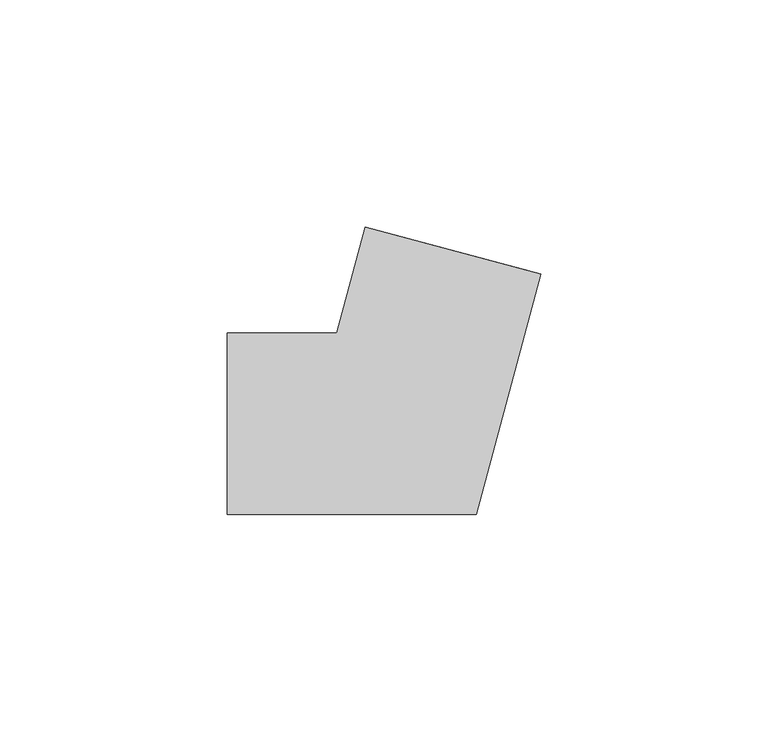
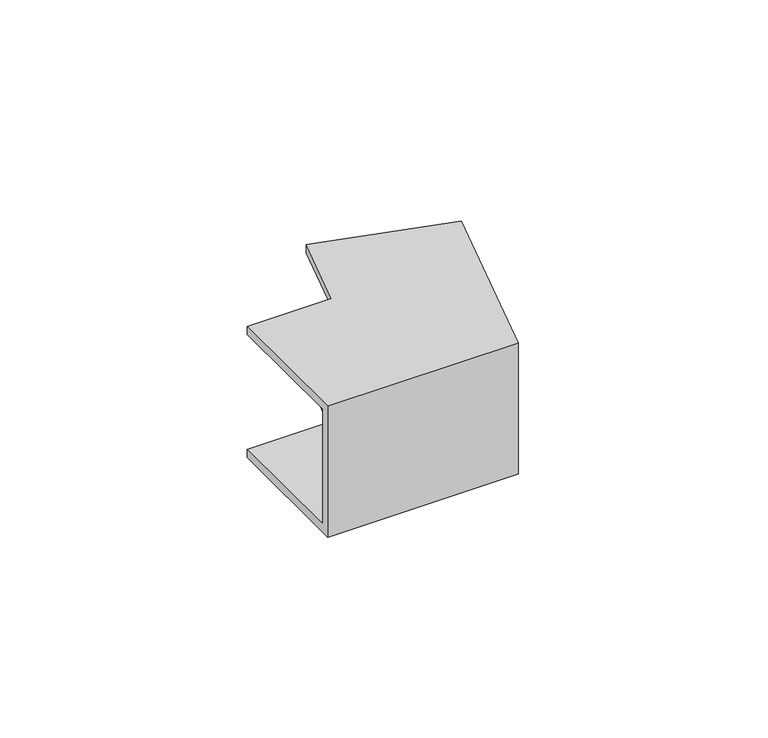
"""IFC4 building model written with IfcOpenShell, lengths in millimetres: cable carrier fitting geometry, КНС_УголВнутренний_ILC_DKC : Угол внутренний_DKC."""

import ifcopenshell
import ifcopenshell.guid

model = None  # the IFC model being written
_history = None  # IfcOwnerHistory: only IFC2X3 demands one
_inside = {}  # id of a spatial element -> (the spatial element, [elements in it])
_under = {}  # id of a project, library or spatial element -> (it, [spatial elements below it])
_declared = {}  # id of a project -> (the project, [libraries it declares])
_typed = {}  # id of a type object -> (the type object, [elements of that type])
_made_of = {}  # id of a material, layer set ... -> (it, [elements and type objects made of it])


def new_model(schema):
    """Start an empty IFC model of exactly this schema.

    Asked for "IFC4X3", IfcOpenShell would pick the latest addendum, in which some entities
    have other attributes; the version numbers below select the first issue.
    IFC2X3 requires an IfcOwnerHistory on every rooted entity: one is made here for all.
    """
    global model, _history
    if schema == "IFC4X3":
        model = ifcopenshell.file(schema_version=(4, 3, 0, 0))
    else:
        model = ifcopenshell.file(schema=schema)
    _inside.clear()
    _under.clear()
    _declared.clear()
    _typed.clear()
    _made_of.clear()
    _history = None
    if model.schema == "IFC2X3":
        org = make("IfcOrganization", Name="unknown")
        user = make(
            "IfcPersonAndOrganization",
            ThePerson=make("IfcPerson", FamilyName="unknown"),
            TheOrganization=org,
        )
        app = make(
            "IfcApplication",
            ApplicationDeveloper=org,
            Version="unknown",
            ApplicationFullName="unknown",
            ApplicationIdentifier="unknown",
        )
        _history = make(
            "IfcOwnerHistory",
            OwningUser=user,
            OwningApplication=app,
            ChangeAction="ADDED",
            CreationDate=0,
        )
    return model


def make(cls, **values):
    """One entity of the class cls with the attributes given. An attribute that is None is left unset."""
    return model.create_entity(
        cls, **{name: value for name, value in values.items() if value is not None}
    )


def rooted(cls, **values):
    """An entity with a GlobalId (a new one), such as an element, a storey or a relation."""
    return make(cls, GlobalId=ifcopenshell.guid.new(), OwnerHistory=_history, **values)


def si_unit(unit_type, name, prefix=None):
    """IfcSIUnit, for example si_unit("LENGTHUNIT", "METRE", prefix="MILLI")."""
    return make("IfcSIUnit", UnitType=unit_type, Prefix=prefix, Name=name)


def assignment(units):
    """IfcUnitAssignment: the units of a project."""
    return None if units is None else make("IfcUnitAssignment", Units=units)


def point(xyz):
    """IfcCartesianPoint."""
    return None if xyz is None else make("IfcCartesianPoint", Coordinates=xyz)


def direction(xyz):
    """IfcDirection."""
    return None if xyz is None else make("IfcDirection", DirectionRatios=xyz)


def frame(location, z_axis=None, x_axis=None):
    """IfcAxis2Placement3D, a coordinate frame: its origin and axes. An axis left out is left unset."""
    return make(
        "IfcAxis2Placement3D",
        Location=point(location),
        Axis=direction(z_axis),
        RefDirection=direction(x_axis),
    )


def origin():
    """The frame at (0, 0, 0) with its axes left unset."""
    return frame((0.0, 0.0, 0.0))


def place(relative_to, where):
    """IfcLocalPlacement: puts the frame where relative to a parent placement (None: the world)."""
    return make(
        "IfcLocalPlacement", PlacementRelTo=relative_to, RelativePlacement=where
    )


def context(
    kind, dimensions, precision=None, world=None, true_north=None, identifier=None
):
    """IfcGeometricRepresentationContext, for example the 3D "Model" context."""
    return make(
        "IfcGeometricRepresentationContext",
        ContextIdentifier=identifier,
        ContextType=kind,
        CoordinateSpaceDimension=dimensions,
        Precision=precision,
        WorldCoordinateSystem=world,
        TrueNorth=true_north,
    )


def project(units=None, contexts=None):
    """IfcProject with its units and contexts."""
    return rooted(
        "IfcProject",
        Name="project",
        RepresentationContexts=contexts,
        UnitsInContext=assignment(units),
    )


def spatial(cls, under=None, at=None, **own):
    """A site, building, storey or space (cls), placed at a placement, below another one or the project."""
    s = rooted(cls, ObjectPlacement=at, **own)
    if under is not None:
        _under.setdefault(under.id(), (under, []))[1].append(s)
    return s


def faces_of(points, faces, orient=None, outer=None):
    """IfcFace entities. A face is a list of loops; a loop is a list of indices into points, from 0.

    orient and outer hold one flag for each loop. By default every Orientation is true, the
    first loop of a face is its IfcFaceOuterBound and the others are IfcFaceBound.
    """
    made = []
    for i, loops in enumerate(faces):
        bounds = []
        for j, loop in enumerate(loops):
            is_outer = j == 0 if outer is None else outer[i][j]
            bounds.append(
                make(
                    "IfcFaceOuterBound" if is_outer else "IfcFaceBound",
                    Bound=make("IfcPolyLoop", Polygon=[points[k] for k in loop]),
                    Orientation=True if orient is None else orient[i][j],
                )
            )
        made.append(make("IfcFace", Bounds=bounds))
    return made


def faceted_brep(points, faces, orient=None, outer=None, voids=None):
    """IfcFacetedBrep: a solid bounded by flat faces; with voids (closed shells), ...WithVoids."""
    shared = [point(p) for p in points]
    hull = make("IfcClosedShell", CfsFaces=faces_of(shared, faces, orient, outer))
    if voids is None:
        return make("IfcFacetedBrep", Outer=hull)
    return make(
        "IfcFacetedBrepWithVoids",
        Outer=hull,
        Voids=[
            make(cls, CfsFaces=faces_of(shared, fs, o, b)) for cls, fs, o, b in voids
        ],
    )


def shape(context_of_items, identifier, shape_type, items):
    """IfcShapeRepresentation: the items that make up one representation, for example the "Body"."""
    return make(
        "IfcShapeRepresentation",
        ContextOfItems=context_of_items,
        RepresentationIdentifier=identifier,
        RepresentationType=shape_type,
        Items=items,
    )


def source(mapping_origin, context_of_items, identifier, shape_type, items):
    """IfcRepresentationMap: a shape defined once, which mapped items show again and again."""
    return make(
        "IfcRepresentationMap",
        MappingOrigin=mapping_origin,
        MappedRepresentation=shape(context_of_items, identifier, shape_type, items),
    )


def transform(
    local_origin,
    x_axis=None,
    y_axis=None,
    z_axis=None,
    scale=None,
    scale2=None,
    scale3=None,
    uniform=True,
):
    """IfcCartesianTransformationOperator3D, or its non-uniform kind. x_axis, y_axis, z_axis: its Axis1, 2, 3."""
    if uniform:
        return make(
            "IfcCartesianTransformationOperator3D",
            Axis1=direction(x_axis),
            Axis2=direction(y_axis),
            LocalOrigin=point(local_origin),
            Scale=scale,
            Axis3=direction(z_axis),
        )
    return make(
        "IfcCartesianTransformationOperator3DnonUniform",
        Axis1=direction(x_axis),
        Axis2=direction(y_axis),
        LocalOrigin=point(local_origin),
        Scale=scale,
        Axis3=direction(z_axis),
        Scale2=scale2,
        Scale3=scale3,
    )


def mapped(mapping_source, mapping_target):
    """IfcMappedItem: shows the shape of a source again, moved by a transform."""
    return make(
        "IfcMappedItem", MappingSource=mapping_source, MappingTarget=mapping_target
    )


def made_of(thing, what):
    """Note that an element or type object is made of a material, layer set ...; save() writes the relation."""
    if what is not None:
        _made_of.setdefault(what.id(), (what, []))[1].append(thing)
    return thing


def element(
    cls,
    number,
    at=None,
    inside=None,
    cuts=None,
    type_object=None,
    material=None,
    context=None,
    identifier="Body",
    shape_type=None,
    held_by="IfcProductDefinitionShape",
    body=None,
    shapes=None,
    **own,
):
    """One element of the class cls, such as IfcWall. Its Tag is "e" and its number.

    at: its placement. inside: the storey or other place that contains it. cuts: it is an
    opening in that element (IfcRelVoidsElement). A single representation is given by context,
    identifier, shape_type and body (its items); several are given by shapes. held_by: the class
    of the entity that holds the representations. save() writes the other relations.
    """
    e = rooted(cls, Tag="e%d" % number, ObjectPlacement=at, **own)
    if body is not None:
        shapes = [shape(context, identifier, shape_type, body)]
    if shapes is not None:
        e.Representation = make(held_by, Representations=shapes)
    if inside is not None:
        _inside.setdefault(inside.id(), (inside, []))[1].append(e)
    if cuts is not None:
        rooted(
            "IfcRelVoidsElement", RelatingBuildingElement=cuts, RelatedOpeningElement=e
        )
    if type_object is not None:
        _typed.setdefault(type_object.id(), (type_object, []))[1].append(e)
    return made_of(e, material)


def aggregate(whole, parts):
    """IfcRelAggregates: a whole, such as a stair, and the parts it consists of."""
    return rooted("IfcRelAggregates", RelatingObject=whole, RelatedObjects=parts)


def save(model, path):
    """Write the relations noted so far, then the file.

    IfcRelAggregates (storeys below a building ...), IfcRelContainedInSpatialStructure (elements
    in a storey), IfcRelDefinesByType, IfcRelAssociatesMaterial and IfcRelDeclares: one each for
    every whole, place, type object, material and project.
    """
    for whole, parts in _under.values():
        aggregate(whole, parts)
    for where, things in _inside.values():
        rooted(
            "IfcRelContainedInSpatialStructure",
            RelatedElements=things,
            RelatingStructure=where,
        )
    for kind, things in _typed.values():
        rooted("IfcRelDefinesByType", RelatedObjects=things, RelatingType=kind)
    for what, things in _made_of.values():
        rooted("IfcRelAssociatesMaterial", RelatedObjects=things, RelatingMaterial=what)
    for by, libraries in _declared.values():
        rooted("IfcRelDeclares", RelatingContext=by, RelatedDefinitions=libraries)
    model.write(path)


def cable_carrier_fitting_1446d542(model_context):
    return source(origin(), model_context, "Body", "Brep", [
        faceted_brep([(-39.5297145, -20.0, 20.0), (-39.5297145, 20.0, 20.0), (-39.5297145, 20.0, 17.5), (-39.5297145, -17.5, 17.5), (-39.5297145, -17.5, -17.5), (-39.5297145, 20.0, -17.5), (-39.5297145, 20.0, -20.0), (-39.5297145, -20.0, -20.0), (29.5495595, 33.0063912, 20.0), (29.5495595, 33.0063912, -20.0), (-9.0874736, 43.359153, -20.0), (-9.0874736, 43.359153, -17.5), (27.1347449, 33.6534388, -17.5), (27.1347449, 33.6534388, 17.5), (-9.0874736, 43.359153, 17.5), (-9.0874736, 43.359153, 20.0), (15.3465398, -20.0, 20.0), (-15.3465398, 20.0, 20.0), (-15.3465398, 20.0, 17.5), (13.4282223, -17.5, 17.5), (13.4282223, -17.5, -17.5), (-15.3465398, 20.0, -17.5), (-15.3465398, 20.0, -20.0), (15.3465398, -20.0, -20.0)], [[[0, 1, 2, 3, 4, 5, 6, 7]], [[8, 9, 10, 11, 12, 13, 14, 15]], [[1, 0, 16, 8, 15, 17]], [[2, 1, 17, 18]], [[3, 2, 18, 14, 13, 19]], [[4, 3, 19, 20]], [[5, 4, 20, 12, 11, 21]], [[6, 5, 21, 22]], [[7, 6, 22, 10, 9, 23]], [[0, 7, 23, 16]], [[18, 17, 15, 14]], [[20, 19, 13, 12]], [[22, 21, 11, 10]], [[16, 23, 9, 8]]]),
    ])


if __name__ == "__main__":
    model = new_model("IFC4")
    model_context = context("Model", 3, world=origin())
    ifc_project = project(units=[si_unit("LENGTHUNIT", "METRE", prefix="MILLI")], contexts=[model_context])
    site = spatial("IfcSite", under=ifc_project)
    building = spatial("IfcBuilding", under=site)
    placement = place(None, origin())
    cable_carrier_fitting_shape = cable_carrier_fitting_1446d542(model_context)
    element("IfcCableCarrierFitting", 1, ObjectType="КНС_УголВнутренний_ILC_DKC : Угол внутренний_DKC", at=placement, inside=building, context=model_context, shape_type="MappedRepresentation", body=[
        mapped(cable_carrier_fitting_shape, transform((0.0, 0.0, 0.0), x_axis=(1.0, 0.0, 0.0), y_axis=(0.0, 1.0, 0.0), z_axis=(0.0, 0.0, 1.0))),
    ])
    save(model, "model.ifc")
